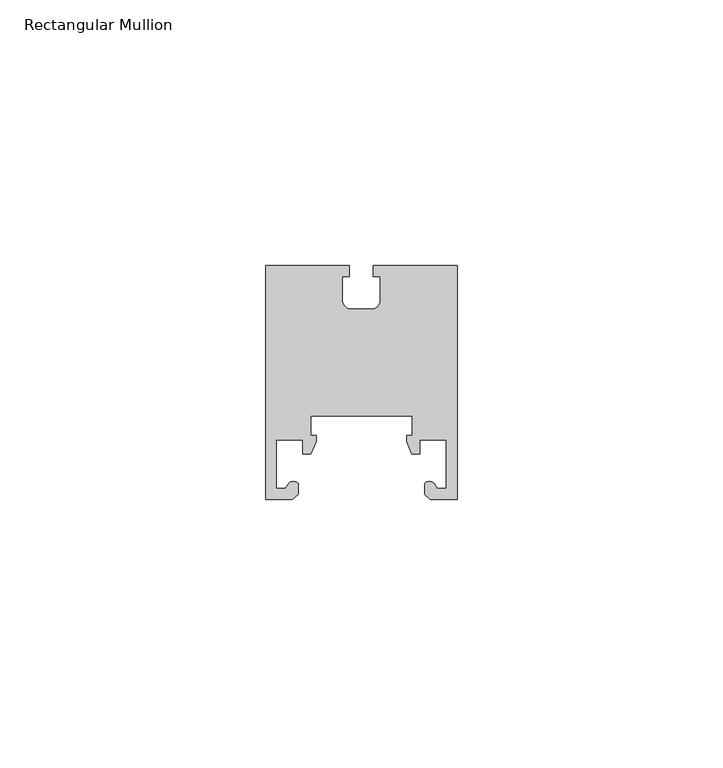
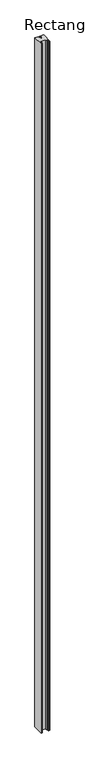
"""IFC4 building model written with IfcOpenShell, lengths in millimetres: member geometry, Rectangular Mullion : LD.0460 - right_renson."""

import ifcopenshell
import ifcopenshell.guid

model = None  # the IFC model being written
_history = None  # IfcOwnerHistory: only IFC2X3 demands one
_inside = {}  # id of a spatial element -> (the spatial element, [elements in it])
_under = {}  # id of a project, library or spatial element -> (it, [spatial elements below it])
_declared = {}  # id of a project -> (the project, [libraries it declares])
_typed = {}  # id of a type object -> (the type object, [elements of that type])
_made_of = {}  # id of a material, layer set ... -> (it, [elements and type objects made of it])


def new_model(schema):
    """Start an empty IFC model of exactly this schema.

    Asked for "IFC4X3", IfcOpenShell would pick the latest addendum, in which some entities
    have other attributes; the version numbers below select the first issue.
    IFC2X3 requires an IfcOwnerHistory on every rooted entity: one is made here for all.
    """
    global model, _history
    if schema == "IFC4X3":
        model = ifcopenshell.file(schema_version=(4, 3, 0, 0))
    else:
        model = ifcopenshell.file(schema=schema)
    _inside.clear()
    _under.clear()
    _declared.clear()
    _typed.clear()
    _made_of.clear()
    _history = None
    if model.schema == "IFC2X3":
        org = make("IfcOrganization", Name="unknown")
        user = make(
            "IfcPersonAndOrganization",
            ThePerson=make("IfcPerson", FamilyName="unknown"),
            TheOrganization=org,
        )
        app = make(
            "IfcApplication",
            ApplicationDeveloper=org,
            Version="unknown",
            ApplicationFullName="unknown",
            ApplicationIdentifier="unknown",
        )
        _history = make(
            "IfcOwnerHistory",
            OwningUser=user,
            OwningApplication=app,
            ChangeAction="ADDED",
            CreationDate=0,
        )
    return model


def make(cls, **values):
    """One entity of the class cls with the attributes given. An attribute that is None is left unset."""
    return model.create_entity(
        cls, **{name: value for name, value in values.items() if value is not None}
    )


def rooted(cls, **values):
    """An entity with a GlobalId (a new one), such as an element, a storey or a relation."""
    return make(cls, GlobalId=ifcopenshell.guid.new(), OwnerHistory=_history, **values)


def si_unit(unit_type, name, prefix=None):
    """IfcSIUnit, for example si_unit("LENGTHUNIT", "METRE", prefix="MILLI")."""
    return make("IfcSIUnit", UnitType=unit_type, Prefix=prefix, Name=name)


def assignment(units):
    """IfcUnitAssignment: the units of a project."""
    return None if units is None else make("IfcUnitAssignment", Units=units)


def point(xyz):
    """IfcCartesianPoint."""
    return None if xyz is None else make("IfcCartesianPoint", Coordinates=xyz)


def direction(xyz):
    """IfcDirection."""
    return None if xyz is None else make("IfcDirection", DirectionRatios=xyz)


def frame(location, z_axis=None, x_axis=None):
    """IfcAxis2Placement3D, a coordinate frame: its origin and axes. An axis left out is left unset."""
    return make(
        "IfcAxis2Placement3D",
        Location=point(location),
        Axis=direction(z_axis),
        RefDirection=direction(x_axis),
    )


def frame_2d(location, x_axis=None):
    """IfcAxis2Placement2D, a coordinate frame in the plane: its origin and x axis."""
    return make(
        "IfcAxis2Placement2D", Location=point(location), RefDirection=direction(x_axis)
    )


def origin():
    """The frame at (0, 0, 0) with its axes left unset."""
    return frame((0.0, 0.0, 0.0))


def place(relative_to, where):
    """IfcLocalPlacement: puts the frame where relative to a parent placement (None: the world)."""
    return make(
        "IfcLocalPlacement", PlacementRelTo=relative_to, RelativePlacement=where
    )


def context(
    kind, dimensions, precision=None, world=None, true_north=None, identifier=None
):
    """IfcGeometricRepresentationContext, for example the 3D "Model" context."""
    return make(
        "IfcGeometricRepresentationContext",
        ContextIdentifier=identifier,
        ContextType=kind,
        CoordinateSpaceDimension=dimensions,
        Precision=precision,
        WorldCoordinateSystem=world,
        TrueNorth=true_north,
    )


def project(units=None, contexts=None):
    """IfcProject with its units and contexts."""
    return rooted(
        "IfcProject",
        Name="project",
        RepresentationContexts=contexts,
        UnitsInContext=assignment(units),
    )


def spatial(cls, under=None, at=None, **own):
    """A site, building, storey or space (cls), placed at a placement, below another one or the project."""
    s = rooted(cls, ObjectPlacement=at, **own)
    if under is not None:
        _under.setdefault(under.id(), (under, []))[1].append(s)
    return s


def polyline(points):
    """IfcPolyline through the points."""
    return make("IfcPolyline", Points=[point(p) for p in points])


def circle_curve(where, radius):
    """IfcCircle in the frame where."""
    return make("IfcCircle", Position=where, Radius=radius)


def trimmed(basis, trim1, trim2, sense, master):
    """IfcTrimmedCurve: the piece of a basis curve between two trims."""
    return make(
        "IfcTrimmedCurve",
        BasisCurve=basis,
        Trim1=trim1,
        Trim2=trim2,
        SenseAgreement=sense,
        MasterRepresentation=master,
    )


def segment(curve, same_sense, transition):
    """IfcCompositeCurveSegment."""
    return make(
        "IfcCompositeCurveSegment",
        Transition=transition,
        SameSense=same_sense,
        ParentCurve=curve,
    )


def composite_curve(segments, self_intersect=None):
    """IfcCompositeCurve: segments joined end to end."""
    return make("IfcCompositeCurve", Segments=segments, SelfIntersect=self_intersect)


def outline(outer, holes=None, kind="AREA"):
    """IfcArbitraryClosedProfileDef: a profile drawn as a closed curve; with holes, ...WithVoids."""
    if holes is None:
        return make("IfcArbitraryClosedProfileDef", ProfileType=kind, OuterCurve=outer)
    return make(
        "IfcArbitraryProfileDefWithVoids",
        ProfileType=kind,
        OuterCurve=outer,
        InnerCurves=holes,
    )


def extrude(swept, where, along, depth):
    """IfcExtrudedAreaSolid: the profile swept, set in the frame where, extruded along a direction by depth."""
    return make(
        "IfcExtrudedAreaSolid",
        SweptArea=swept,
        Position=where,
        ExtrudedDirection=direction(along),
        Depth=depth,
    )


def shape(context_of_items, identifier, shape_type, items):
    """IfcShapeRepresentation: the items that make up one representation, for example the "Body"."""
    return make(
        "IfcShapeRepresentation",
        ContextOfItems=context_of_items,
        RepresentationIdentifier=identifier,
        RepresentationType=shape_type,
        Items=items,
    )


def source(mapping_origin, context_of_items, identifier, shape_type, items):
    """IfcRepresentationMap: a shape defined once, which mapped items show again and again."""
    return make(
        "IfcRepresentationMap",
        MappingOrigin=mapping_origin,
        MappedRepresentation=shape(context_of_items, identifier, shape_type, items),
    )


def transform(
    local_origin,
    x_axis=None,
    y_axis=None,
    z_axis=None,
    scale=None,
    scale2=None,
    scale3=None,
    uniform=True,
):
    """IfcCartesianTransformationOperator3D, or its non-uniform kind. x_axis, y_axis, z_axis: its Axis1, 2, 3."""
    if uniform:
        return make(
            "IfcCartesianTransformationOperator3D",
            Axis1=direction(x_axis),
            Axis2=direction(y_axis),
            LocalOrigin=point(local_origin),
            Scale=scale,
            Axis3=direction(z_axis),
        )
    return make(
        "IfcCartesianTransformationOperator3DnonUniform",
        Axis1=direction(x_axis),
        Axis2=direction(y_axis),
        LocalOrigin=point(local_origin),
        Scale=scale,
        Axis3=direction(z_axis),
        Scale2=scale2,
        Scale3=scale3,
    )


def mapped(mapping_source, mapping_target):
    """IfcMappedItem: shows the shape of a source again, moved by a transform."""
    return make(
        "IfcMappedItem", MappingSource=mapping_source, MappingTarget=mapping_target
    )


def made_of(thing, what):
    """Note that an element or type object is made of a material, layer set ...; save() writes the relation."""
    if what is not None:
        _made_of.setdefault(what.id(), (what, []))[1].append(thing)
    return thing


def element(
    cls,
    number,
    at=None,
    inside=None,
    cuts=None,
    type_object=None,
    material=None,
    context=None,
    identifier="Body",
    shape_type=None,
    held_by="IfcProductDefinitionShape",
    body=None,
    shapes=None,
    **own,
):
    """One element of the class cls, such as IfcWall. Its Tag is "e" and its number.

    at: its placement. inside: the storey or other place that contains it. cuts: it is an
    opening in that element (IfcRelVoidsElement). A single representation is given by context,
    identifier, shape_type and body (its items); several are given by shapes. held_by: the class
    of the entity that holds the representations. save() writes the other relations.
    """
    e = rooted(cls, Tag="e%d" % number, ObjectPlacement=at, **own)
    if body is not None:
        shapes = [shape(context, identifier, shape_type, body)]
    if shapes is not None:
        e.Representation = make(held_by, Representations=shapes)
    if inside is not None:
        _inside.setdefault(inside.id(), (inside, []))[1].append(e)
    if cuts is not None:
        rooted(
            "IfcRelVoidsElement", RelatingBuildingElement=cuts, RelatedOpeningElement=e
        )
    if type_object is not None:
        _typed.setdefault(type_object.id(), (type_object, []))[1].append(e)
    return made_of(e, material)


def aggregate(whole, parts):
    """IfcRelAggregates: a whole, such as a stair, and the parts it consists of."""
    return rooted("IfcRelAggregates", RelatingObject=whole, RelatedObjects=parts)


def save(model, path):
    """Write the relations noted so far, then the file.

    IfcRelAggregates (storeys below a building ...), IfcRelContainedInSpatialStructure (elements
    in a storey), IfcRelDefinesByType, IfcRelAssociatesMaterial and IfcRelDeclares: one each for
    every whole, place, type object, material and project.
    """
    for whole, parts in _under.values():
        aggregate(whole, parts)
    for where, things in _inside.values():
        rooted(
            "IfcRelContainedInSpatialStructure",
            RelatedElements=things,
            RelatingStructure=where,
        )
    for kind, things in _typed.values():
        rooted("IfcRelDefinesByType", RelatedObjects=things, RelatingType=kind)
    for what, things in _made_of.values():
        rooted("IfcRelAssociatesMaterial", RelatedObjects=things, RelatingMaterial=what)
    for by, libraries in _declared.values():
        rooted("IfcRelDeclares", RelatingContext=by, RelatedDefinitions=libraries)
    model.write(path)


def rectangular_mullion_ac71f9c1(model_context):
    return source(origin(), model_context, "Body", "SweptSolid", [
        extrude(outline(composite_curve([segment(polyline([(0.0, -45.0), (-5.0, -45.0), (-6.1000941, -44.0769114), (-6.1000941, -42.061549)]), True, "CONTINUOUS"), segment(trimmed(circle_curve(frame_2d((-5.2049928, -42.8498072)), 1.1927101), [point((-6.1000941, -42.061549))], [point((-4.3098916, -42.061549))], False, "CARTESIAN"), True, "CONTINUOUS"), segment(polyline([(-4.3098916, -42.061549), (-3.6747557, -42.9686169), (-2.0, -42.9686169), (-2.0, -33.8153021), (-6.9750091, -33.8153021), (-6.9750091, -36.4593247), (-8.4932704, -36.4593247), (-9.5019532, -34.083017), (-9.5019532, -32.9566029), (-8.4624547, -32.9566029), (-8.4624547, -29.3621189), (-27.5375453, -29.3621189), (-27.5375453, -32.9566029), (-26.4980468, -32.9566029), (-26.4980468, -34.083017), (-27.5067296, -36.4593247), (-29.0249909, -36.4593247), (-29.0249909, -33.8153021), (-34.0, -33.8153021), (-34.0, -42.9686169), (-32.3252443, -42.9686169), (-31.6901084, -42.061549)]), True, "CONTINUOUS"), segment(trimmed(circle_curve(frame_2d((-30.7950072, -42.8498072)), 1.1927101), [point((-31.6901084, -42.061549))], [point((-29.8999059, -42.061549))], False, "CARTESIAN"), True, "CONTINUOUS"), segment(polyline([(-29.8999059, -42.061549), (-29.8999059, -44.0769114), (-31.0, -45.0), (-36.0, -45.0), (-36.0, -1.0), (-20.2489445, -1.0), (-20.2489445, -3.0843142), (-21.59041, -3.0843142), (-21.59041, -7.4667227)]), True, "CONTINUOUS"), segment(trimmed(circle_curve(frame_2d((-19.8285608, -7.4667227)), 1.7618492), [point((-21.59041, -7.4667227))], [point((-20.0972447, -9.2079641))], True, "CARTESIAN"), True, "CONTINUOUS"), segment(polyline([(-20.0972447, -9.2079641), (-16.440123, -9.2079641)]), True, "CONTINUOUS"), segment(trimmed(circle_curve(frame_2d((-16.1714392, -7.4667227)), 1.7618492), [point((-16.440123, -9.2079641))], [point((-14.40959, -7.4667227))], True, "CARTESIAN"), True, "CONTINUOUS"), segment(polyline([(-14.40959, -7.4667227), (-14.40959, -3.0843142), (-15.7510555, -3.0843142), (-15.7510555, -1.0), (0.0, -1.0), (0.0, -45.0)]), True, "CONTINUOUS")], self_intersect=False)), frame((0.0, 0.0, -3000.0), z_axis=(0.0, 0.0, 1.0), x_axis=(1.0, 0.0, 0.0)), (0.0, 0.0, 1.0), 3000.0),
    ])


if __name__ == "__main__":
    model = new_model("IFC4")
    model_context = context("Model", 3, world=origin())
    ifc_project = project(units=[si_unit("LENGTHUNIT", "METRE", prefix="MILLI")], contexts=[model_context])
    site = spatial("IfcSite", under=ifc_project)
    building = spatial("IfcBuilding", under=site)
    placement = place(None, origin())
    rectangular_mullion_shape = rectangular_mullion_ac71f9c1(model_context)
    element("IfcMember", 1, ObjectType="Rectangular Mullion : LD.0460 - right_renson", at=placement, inside=building, context=model_context, shape_type="MappedRepresentation", body=[
        mapped(rectangular_mullion_shape, transform((0.0, 0.0, 0.0), x_axis=(1.0, 0.0, 0.0), y_axis=(0.0, 1.0, 0.0), z_axis=(0.0, 0.0, 1.0))),
    ])
    save(model, "model.ifc")
